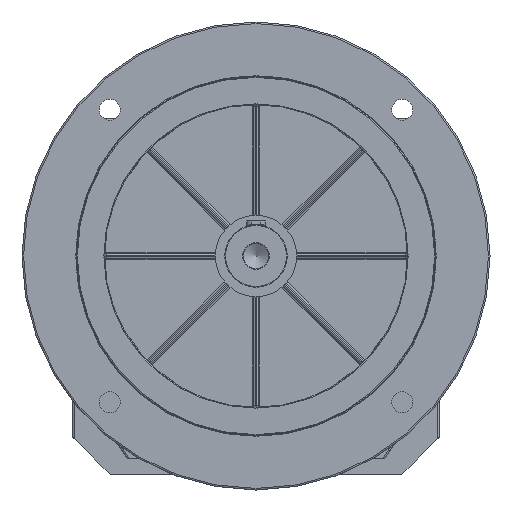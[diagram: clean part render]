
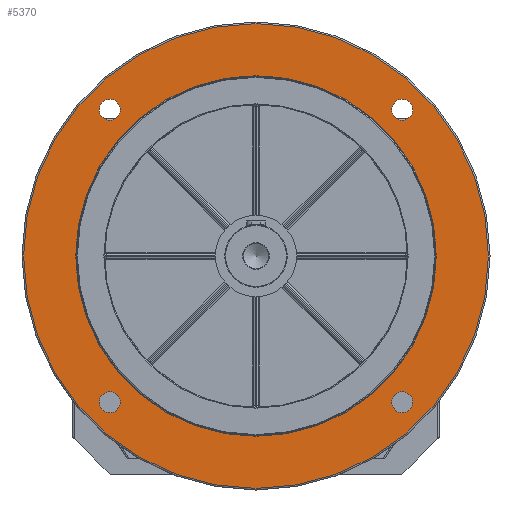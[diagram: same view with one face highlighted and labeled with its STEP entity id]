
A CAD part, front view. The second image highlights one B-rep face of the part: STEP entity #5370.
In plain terms, the highlighted planar face has unit normal (0, -1, 0).
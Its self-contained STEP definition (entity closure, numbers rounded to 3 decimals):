
#5292=CARTESIAN_POINT('',(0.0,-137.5,289.0));
#5293=VERTEX_POINT('',#5292);
#5294=CARTESIAN_POINT('',(0.0,-137.5,140.0));
#5295=DIRECTION('',(0.0,1.0,0.0));
#5296=DIRECTION('',(0.0,0.0,-1.0));
#5297=AXIS2_PLACEMENT_3D('',#5294,#5295,#5296);
#5298=CIRCLE('',#5297,149.0);
#5299=EDGE_CURVE('',#5293,#5293,#5298,.T.);
#5307=CARTESIAN_POINT('',(0.0,-137.5,272.5));
#5308=DIRECTION('',(0.0,-1.0,0.0));
#5309=DIRECTION('',(0.0,0.0,-1.0));
#5310=AXIS2_PLACEMENT_3D('',#5307,#5308,#5309);
#5311=PLANE('',#5310);
#5312=ORIENTED_EDGE('',*,*,#5299,.F.);
#5313=EDGE_LOOP('',(#5312));
#5314=FACE_OUTER_BOUND('',#5313,.T.);
#5315=CARTESIAN_POINT('',(0.,-137.5,255.5));
#5316=VERTEX_POINT('',#5315);
#5317=CARTESIAN_POINT('',(0.0,-137.5,140.0));
#5318=DIRECTION('',(0.0,-1.0,0.0));
#5319=DIRECTION('',(0.0,0.0,-1.0));
#5320=AXIS2_PLACEMENT_3D('',#5317,#5318,#5319);
#5321=CIRCLE('',#5320,115.5);
#5322=EDGE_CURVE('',#5316,#5316,#5321,.T.);
#5323=ORIENTED_EDGE('',*,*,#5322,.F.);
#5324=EDGE_LOOP('',(#5323));
#5325=FACE_BOUND('',#5324,.T.);
#5326=CARTESIAN_POINT('',(-86.942,-137.5,233.692));
#5327=VERTEX_POINT('',#5326);
#5328=CARTESIAN_POINT('',(-93.692,-137.5,233.692));
#5329=DIRECTION('',(0.0,1.0,0.0));
#5330=DIRECTION('',(1.0,0.0,0.0));
#5331=AXIS2_PLACEMENT_3D('',#5328,#5329,#5330);
#5332=CIRCLE('',#5331,6.75);
#5333=EDGE_CURVE('',#5327,#5327,#5332,.T.);
#5334=ORIENTED_EDGE('',*,*,#5333,.T.);
#5335=EDGE_LOOP('',(#5334));
#5336=FACE_BOUND('',#5335,.T.);
#5337=CARTESIAN_POINT('',(100.442,-137.5,233.692));
#5338=VERTEX_POINT('',#5337);
#5339=CARTESIAN_POINT('',(93.692,-137.5,233.692));
#5340=DIRECTION('',(0.0,1.0,0.0));
#5341=DIRECTION('',(1.0,0.0,0.0));
#5342=AXIS2_PLACEMENT_3D('',#5339,#5340,#5341);
#5343=CIRCLE('',#5342,6.75);
#5344=EDGE_CURVE('',#5338,#5338,#5343,.T.);
#5345=ORIENTED_EDGE('',*,*,#5344,.T.);
#5346=EDGE_LOOP('',(#5345));
#5347=FACE_BOUND('',#5346,.T.);
#5348=CARTESIAN_POINT('',(100.442,-137.5,46.308));
#5349=VERTEX_POINT('',#5348);
#5350=CARTESIAN_POINT('',(93.692,-137.5,46.308));
#5351=DIRECTION('',(0.0,1.0,0.0));
#5352=DIRECTION('',(1.0,0.0,0.0));
#5353=AXIS2_PLACEMENT_3D('',#5350,#5351,#5352);
#5354=CIRCLE('',#5353,6.75);
#5355=EDGE_CURVE('',#5349,#5349,#5354,.T.);
#5356=ORIENTED_EDGE('',*,*,#5355,.T.);
#5357=EDGE_LOOP('',(#5356));
#5358=FACE_BOUND('',#5357,.T.);
#5359=CARTESIAN_POINT('',(-86.942,-137.5,46.308));
#5360=VERTEX_POINT('',#5359);
#5361=CARTESIAN_POINT('',(-93.692,-137.5,46.308));
#5362=DIRECTION('',(0.0,1.0,0.0));
#5363=DIRECTION('',(1.0,0.0,0.0));
#5364=AXIS2_PLACEMENT_3D('',#5361,#5362,#5363);
#5365=CIRCLE('',#5364,6.75);
#5366=EDGE_CURVE('',#5360,#5360,#5365,.T.);
#5367=ORIENTED_EDGE('',*,*,#5366,.T.);
#5368=EDGE_LOOP('',(#5367));
#5369=FACE_BOUND('',#5368,.T.);
#5370=ADVANCED_FACE('',(#5314,#5325,#5336,#5347,#5358,#5369),#5311,.T.);
